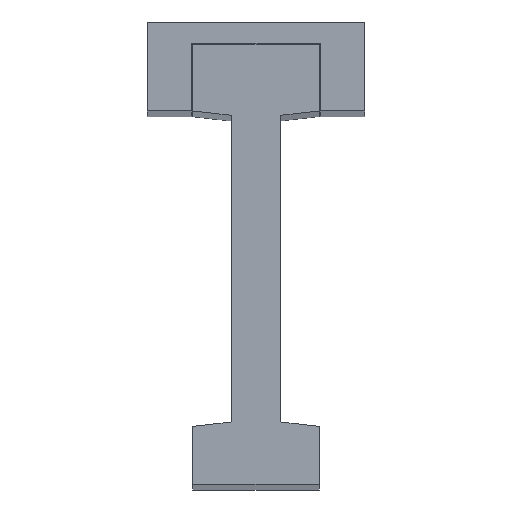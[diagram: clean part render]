
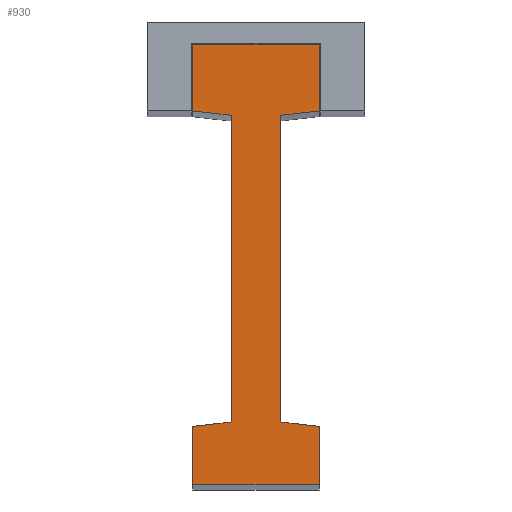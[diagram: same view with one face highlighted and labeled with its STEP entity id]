
A CAD part, top view. The second image highlights one B-rep face of the part: STEP entity #930.
In plain terms, the highlighted planar face has unit normal (0, 0, 1).
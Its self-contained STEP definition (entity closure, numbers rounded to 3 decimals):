
#168 = LINE ( 'NONE', #3967, #2657 ) ;
#169 = EDGE_CURVE ( 'NONE', #2577, #3219, #215, .T. ) ;
#215 = LINE ( 'NONE', #3586, #4740 ) ;
#284 = ORIENTED_EDGE ( 'NONE', *, *, #2806, .T. ) ;
#291 = DIRECTION ( 'NONE',  ( 0., 1., 0. ) ) ;
#333 = DIRECTION ( 'NONE',  ( 0., 1., 0. ) ) ;
#370 = VERTEX_POINT ( 'NONE', #3358 ) ;
#461 = VERTEX_POINT ( 'NONE', #1947 ) ;
#532 = CARTESIAN_POINT ( 'NONE',  ( 66.6, 231.204, 1025.517 ) ) ;
#614 = VECTOR ( 'NONE', #1067, 1000. ) ;
#652 = ORIENTED_EDGE ( 'NONE', *, *, #3398, .T. ) ;
#661 = CARTESIAN_POINT ( 'NONE',  ( 77.8, 231.204, 1025.517 ) ) ;
#675 = PLANE ( 'NONE',  #4328 ) ;
#833 = VERTEX_POINT ( 'NONE', #5413 ) ;
#876 = CARTESIAN_POINT ( 'NONE',  ( 66.6, 298.704, 1025.517 ) ) ;
#930 = ADVANCED_FACE ( 'NONE', ( #1215 ), #675, .T. ) ;
#1067 = DIRECTION ( 'NONE',  ( 0., 1., 0. ) ) ;
#1081 = ORIENTED_EDGE ( 'NONE', *, *, #1348, .T. ) ;
#1215 = FACE_OUTER_BOUND ( 'NONE', #4179, .T. ) ;
#1227 = EDGE_CURVE ( 'NONE', #370, #4221, #3085, .T. ) ;
#1250 = VECTOR ( 'NONE', #291, 1000. ) ;
#1276 = ORIENTED_EDGE ( 'NONE', *, *, #2939, .T. ) ;
#1292 = DIRECTION ( 'NONE',  ( 0., -1., 0. ) ) ;
#1308 = DIRECTION ( 'NONE',  ( 0., 0., 1. ) ) ;
#1348 = EDGE_CURVE ( 'NONE', #833, #2977, #3266, .T. ) ;
#1356 = CARTESIAN_POINT ( 'NONE',  ( 86.45, 301.204, 1025.517 ) ) ;
#1365 = CARTESIAN_POINT ( 'NONE',  ( 86.45, 230.204, 1025.517 ) ) ;
#1366 = DIRECTION ( 'NONE',  ( 0., -1., 0. ) ) ;
#1395 = LINE ( 'NONE', #5128, #3862 ) ;
#1496 = ORIENTED_EDGE ( 'NONE', *, *, #5211, .T. ) ;
#1550 = CARTESIAN_POINT ( 'NONE',  ( 86.45, 217.204, 1025.517 ) ) ;
#1555 = VECTOR ( 'NONE', #2227, 1000. ) ;
#1772 = CARTESIAN_POINT ( 'NONE',  ( 77.8, 231.204, 1025.517 ) ) ;
#1775 = LINE ( 'NONE', #1356, #4189 ) ;
#1937 = CARTESIAN_POINT ( 'NONE',  ( 86.45, 230.204, 1025.517 ) ) ;
#1947 = CARTESIAN_POINT ( 'NONE',  ( 86.45, 316.204, 1025.517 ) ) ;
#2135 = DIRECTION ( 'NONE',  ( 0., -1., 0. ) ) ;
#2165 = EDGE_CURVE ( 'NONE', #4013, #370, #3291, .T. ) ;
#2227 = DIRECTION ( 'NONE',  ( -0.993, 0.115, 0. ) ) ;
#2340 = CARTESIAN_POINT ( 'NONE',  ( 57.95, 301.204, 1025.517 ) ) ;
#2365 = DIRECTION ( 'NONE',  ( 1., 0., 0. ) ) ;
#2406 = EDGE_CURVE ( 'NONE', #4967, #4413, #1395, .T. ) ;
#2434 = ORIENTED_EDGE ( 'NONE', *, *, #1227, .T. ) ;
#2500 = LINE ( 'NONE', #3472, #5468 ) ;
#2577 = VERTEX_POINT ( 'NONE', #4345 ) ;
#2657 = VECTOR ( 'NONE', #3073, 1000. ) ;
#2764 = CARTESIAN_POINT ( 'NONE',  ( 86.45, 217.204, 1025.517 ) ) ;
#2798 = CARTESIAN_POINT ( 'NONE',  ( 57.95, 217.204, 1025.517 ) ) ;
#2806 = EDGE_CURVE ( 'NONE', #4221, #461, #1775, .T. ) ;
#2825 = VECTOR ( 'NONE', #6046, 1000. ) ;
#2939 = EDGE_CURVE ( 'NONE', #6127, #4013, #5675, .T. ) ;
#2969 = ORIENTED_EDGE ( 'NONE', *, *, #5226, .F. ) ;
#2977 = VERTEX_POINT ( 'NONE', #532 ) ;
#3073 = DIRECTION ( 'NONE',  ( -1., 0., 0. ) ) ;
#3085 = LINE ( 'NONE', #3552, #2825 ) ;
#3136 = VERTEX_POINT ( 'NONE', #2764 ) ;
#3214 = DIRECTION ( 'NONE',  ( 1., 0., 0. ) ) ;
#3219 = VERTEX_POINT ( 'NONE', #2798 ) ;
#3266 = LINE ( 'NONE', #876, #6235 ) ;
#3291 = LINE ( 'NONE', #1772, #1250 ) ;
#3304 = LINE ( 'NONE', #5234, #3638 ) ;
#3354 = EDGE_CURVE ( 'NONE', #461, #4967, #168, .T. ) ;
#3358 = CARTESIAN_POINT ( 'NONE',  ( 77.8, 300.204, 1025.517 ) ) ;
#3398 = EDGE_CURVE ( 'NONE', #3136, #6127, #5885, .T. ) ;
#3428 = ORIENTED_EDGE ( 'NONE', *, *, #2165, .T. ) ;
#3472 = CARTESIAN_POINT ( 'NONE',  ( 66.6, 231.204, 1025.517 ) ) ;
#3552 = CARTESIAN_POINT ( 'NONE',  ( 86.45, 301.204, 1025.517 ) ) ;
#3586 = CARTESIAN_POINT ( 'NONE',  ( 57.95, 230.204, 1025.517 ) ) ;
#3638 = VECTOR ( 'NONE', #2365, 1000. ) ;
#3862 = VECTOR ( 'NONE', #1366, 1000. ) ;
#3912 = EDGE_CURVE ( 'NONE', #3219, #3136, #3304, .T. ) ;
#3959 = CARTESIAN_POINT ( 'NONE',  ( 57.95, 316.204, 1025.517 ) ) ;
#3967 = CARTESIAN_POINT ( 'NONE',  ( 86.45, 316.204, 1025.517 ) ) ;
#4013 = VERTEX_POINT ( 'NONE', #661 ) ;
#4179 = EDGE_LOOP ( 'NONE', ( #5191, #2969, #1081, #1496, #5800, #6186, #652, #1276, #3428, #2434, #284, #4623 ) ) ;
#4189 = VECTOR ( 'NONE', #333, 1000. ) ;
#4221 = VERTEX_POINT ( 'NONE', #4755 ) ;
#4328 = AXIS2_PLACEMENT_3D ( 'NONE', #5115, #1308, #3214 ) ;
#4345 = CARTESIAN_POINT ( 'NONE',  ( 57.95, 230.204, 1025.517 ) ) ;
#4413 = VERTEX_POINT ( 'NONE', #5601 ) ;
#4415 = DIRECTION ( 'NONE',  ( -0.993, -0.115, 0. ) ) ;
#4623 = ORIENTED_EDGE ( 'NONE', *, *, #3354, .T. ) ;
#4740 = VECTOR ( 'NONE', #2135, 1000. ) ;
#4755 = CARTESIAN_POINT ( 'NONE',  ( 86.45, 301.204, 1025.517 ) ) ;
#4967 = VERTEX_POINT ( 'NONE', #3959 ) ;
#5115 = CARTESIAN_POINT ( 'NONE',  ( 57.95, 217.204, 1025.517 ) ) ;
#5128 = CARTESIAN_POINT ( 'NONE',  ( 57.95, 316.204, 1025.517 ) ) ;
#5191 = ORIENTED_EDGE ( 'NONE', *, *, #2406, .T. ) ;
#5211 = EDGE_CURVE ( 'NONE', #2977, #2577, #2500, .T. ) ;
#5226 = EDGE_CURVE ( 'NONE', #833, #4413, #6223, .T. ) ;
#5234 = CARTESIAN_POINT ( 'NONE',  ( 57.95, 217.204, 1025.517 ) ) ;
#5413 = CARTESIAN_POINT ( 'NONE',  ( 66.6, 300.204, 1025.517 ) ) ;
#5468 = VECTOR ( 'NONE', #4415, 1000. ) ;
#5601 = CARTESIAN_POINT ( 'NONE',  ( 57.95, 301.204, 1025.517 ) ) ;
#5655 = DIRECTION ( 'NONE',  ( -0.993, 0.115, 0. ) ) ;
#5675 = LINE ( 'NONE', #1365, #1555 ) ;
#5800 = ORIENTED_EDGE ( 'NONE', *, *, #169, .T. ) ;
#5885 = LINE ( 'NONE', #1550, #614 ) ;
#6046 = DIRECTION ( 'NONE',  ( 0.993, 0.115, 0. ) ) ;
#6074 = VECTOR ( 'NONE', #5655, 1000. ) ;
#6127 = VERTEX_POINT ( 'NONE', #1937 ) ;
#6186 = ORIENTED_EDGE ( 'NONE', *, *, #3912, .T. ) ;
#6223 = LINE ( 'NONE', #2340, #6074 ) ;
#6235 = VECTOR ( 'NONE', #1292, 1000. ) ;
